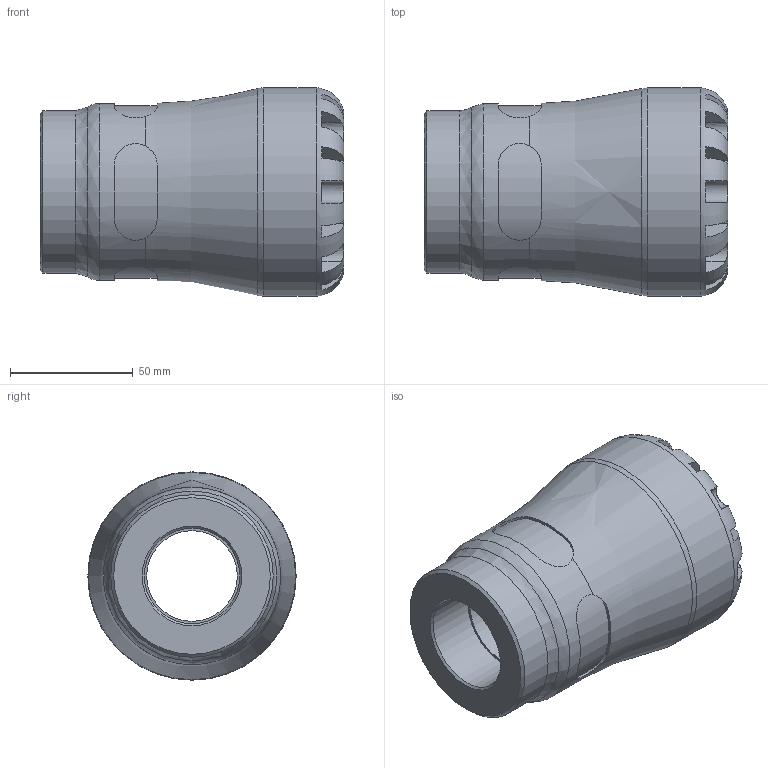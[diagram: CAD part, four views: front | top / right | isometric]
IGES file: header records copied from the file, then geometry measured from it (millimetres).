
Global section: file name: 107300050013_197300050013.ipt; native system: Autodesk Inventor 2015; preprocessor: unknown; author: KIM; date: 20170122.113620; units: millimetre
Bounding box: 124 x 85 x 85 mm (x, y, z)
Volume: 346925 mm3; surface area: 56172.8 mm2
Topology: 1 solids, 1 shells, 104 faces, 279 edges, 180 vertices
Faces by surface type: plane 61, revolution 27, cylinder 15, cone 1
Full cylindrical faces by diameter (mm): 66.3 x1, 72.25 x1, 85 x1
